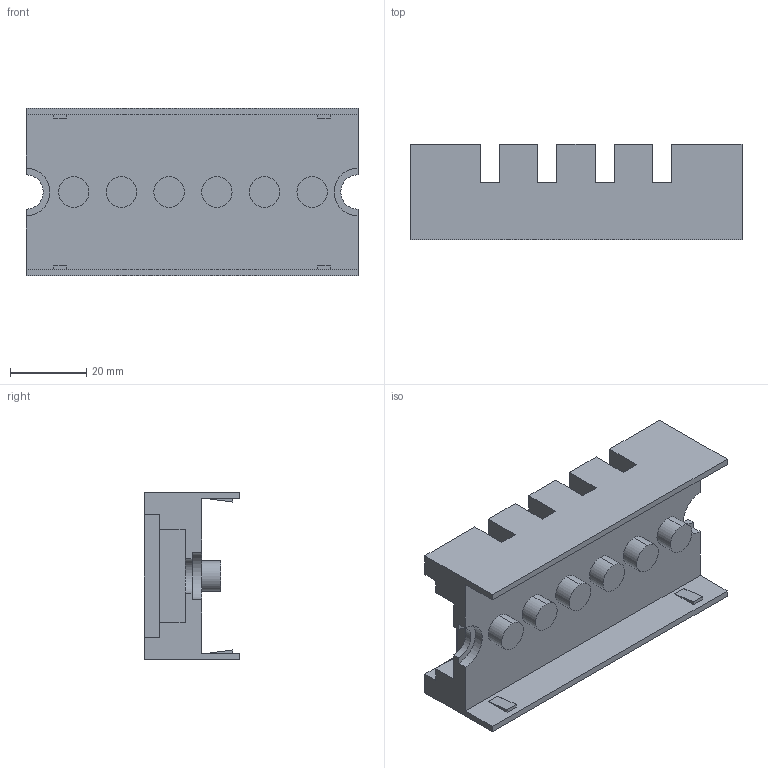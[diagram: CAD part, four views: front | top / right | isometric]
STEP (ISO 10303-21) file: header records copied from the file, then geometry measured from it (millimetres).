
FILE_DESCRIPTION (( 'STEP AP214' ), '1' );
FILE_NAME ('YIS40-05-04-087 Èçîëÿòîð øèíîäåðæàòåëÿ 87-5-4.STEP', '2025-08-19T12:58:23', ( '' ), ( '' ), 'SwSTEP 2.0', 'SolidWorks 2023', '' );
FILE_SCHEMA (( 'AUTOMOTIVE_DESIGN' ));
Length unit declared in the file: millimetre
Products named in the file (1): YIS40-05-04-087 Изолятор шинодержателя 87-5-4
Bounding box: 87 x 25 x 44 mm (x, y, z)
Volume: 44654.2 mm3; surface area: 19857.7 mm2
Topology: 1 solids, 1 shells, 127 faces, 336 edges, 224 vertices
Faces by surface type: plane 97, cylinder 30
Entity records: 3933 total; most frequent: CARTESIAN_POINT 688, ORIENTED_EDGE 672, DIRECTION 652, EDGE_CURVE 336, VECTOR 276, LINE 276, VERTEX_POINT 224, AXIS2_PLACEMENT_3D 188
